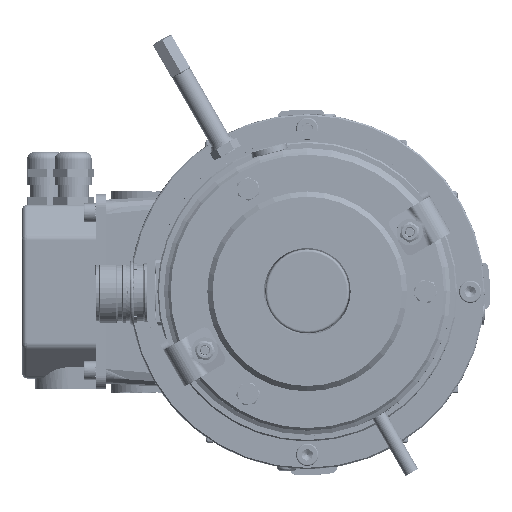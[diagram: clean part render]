
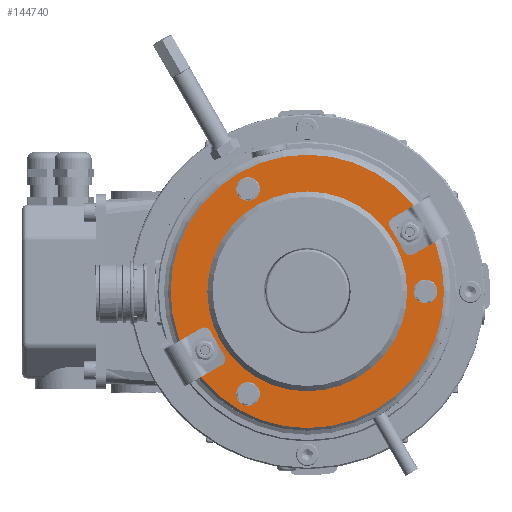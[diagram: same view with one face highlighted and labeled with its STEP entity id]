
A CAD part, top view. The second image highlights one B-rep face of the part: STEP entity #144740.
In plain terms, the highlighted planar face has unit normal (0, 0, 1).
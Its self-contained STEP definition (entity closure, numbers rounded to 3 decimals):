
#1628=FACE_BOUND('',#36947,.T.);
#1629=FACE_BOUND('',#36948,.T.);
#1630=FACE_BOUND('',#36949,.T.);
#1631=FACE_BOUND('',#36950,.T.);
#1632=FACE_BOUND('',#36951,.T.);
#1633=FACE_BOUND('',#36952,.T.);
#1634=FACE_BOUND('',#36953,.T.);
#1635=FACE_BOUND('',#36954,.T.);
#1636=FACE_BOUND('',#36955,.T.);
#1637=FACE_BOUND('',#36956,.T.);
#6329=PLANE('',#154122);
#10381=LINE('',#214909,#18391);
#10382=LINE('',#214910,#18392);
#10383=LINE('',#214911,#18393);
#10384=LINE('',#214912,#18394);
#18391=VECTOR('',#171252,7.782);
#18392=VECTOR('',#171253,7.782);
#18393=VECTOR('',#171254,7.782);
#18394=VECTOR('',#171255,7.782);
#28109=FACE_OUTER_BOUND('',#36946,.T.);
#36946=EDGE_LOOP('',(#92371));
#36947=EDGE_LOOP('',(#92372,#92373));
#36948=EDGE_LOOP('',(#92374,#92375));
#36949=EDGE_LOOP('',(#92376,#92377));
#36950=EDGE_LOOP('',(#92378,#92379));
#36951=EDGE_LOOP('',(#92380));
#36952=EDGE_LOOP('',(#92381));
#36953=EDGE_LOOP('',(#92382));
#36954=EDGE_LOOP('',(#92383));
#36955=EDGE_LOOP('',(#92384));
#36956=EDGE_LOOP('',(#92385));
#47608=CIRCLE('',#153983,4.5);
#47619=CIRCLE('',#154013,4.5);
#47630=CIRCLE('',#154043,4.5);
#47664=CIRCLE('',#154121,38.);
#47665=CIRCLE('',#154123,52.);
#47666=CIRCLE('',#154124,2.6);
#47667=CIRCLE('',#154125,2.6);
#55013=VERTEX_POINT('',#211743);
#55014=VERTEX_POINT('',#211745);
#55024=VERTEX_POINT('',#211774);
#55027=VERTEX_POINT('',#211785);
#55121=VERTEX_POINT('',#212240);
#55122=VERTEX_POINT('',#212242);
#55137=VERTEX_POINT('',#212289);
#55149=VERTEX_POINT('',#212316);
#55541=VERTEX_POINT('',#214308);
#55564=VERTEX_POINT('',#214411);
#55587=VERTEX_POINT('',#214514);
#55645=VERTEX_POINT('',#214903);
#55646=VERTEX_POINT('',#214907);
#55647=VERTEX_POINT('',#214913);
#55648=VERTEX_POINT('',#214915);
#69051=EDGE_CURVE('',#55541,#55541,#47608,.T.);
#69088=EDGE_CURVE('',#55564,#55564,#47619,.T.);
#69125=EDGE_CURVE('',#55587,#55587,#47630,.T.);
#69216=EDGE_CURVE('',#55645,#55645,#47664,.T.);
#69218=EDGE_CURVE('',#55646,#55646,#47665,.T.);
#69219=EDGE_CURVE('',#55014,#55013,#10381,.T.);
#69220=EDGE_CURVE('',#55027,#55024,#10382,.T.);
#69221=EDGE_CURVE('',#55122,#55121,#10383,.T.);
#69222=EDGE_CURVE('',#55137,#55149,#10384,.T.);
#69223=EDGE_CURVE('',#55647,#55647,#47666,.T.);
#69224=EDGE_CURVE('',#55648,#55648,#47667,.T.);
#92371=ORIENTED_EDGE('',*,*,#69218,.T.);
#92372=ORIENTED_EDGE('',*,*,#69219,.T.);
#92373=ORIENTED_EDGE('',*,*,#69219,.F.);
#92374=ORIENTED_EDGE('',*,*,#69220,.T.);
#92375=ORIENTED_EDGE('',*,*,#69220,.F.);
#92376=ORIENTED_EDGE('',*,*,#69221,.T.);
#92377=ORIENTED_EDGE('',*,*,#69221,.F.);
#92378=ORIENTED_EDGE('',*,*,#69222,.T.);
#92379=ORIENTED_EDGE('',*,*,#69222,.F.);
#92380=ORIENTED_EDGE('',*,*,#69051,.T.);
#92381=ORIENTED_EDGE('',*,*,#69088,.T.);
#92382=ORIENTED_EDGE('',*,*,#69125,.T.);
#92383=ORIENTED_EDGE('',*,*,#69223,.T.);
#92384=ORIENTED_EDGE('',*,*,#69224,.T.);
#92385=ORIENTED_EDGE('',*,*,#69216,.F.);
#144740=ADVANCED_FACE('',(#28109,#1628,#1629,#1630,#1631,#1632,#1633,#1634,
#1635,#1636,#1637),#6329,.T.);
#153983=AXIS2_PLACEMENT_3D('',#214310,#170908,#170909);
#154013=AXIS2_PLACEMENT_3D('',#214413,#170982,#170983);
#154043=AXIS2_PLACEMENT_3D('',#214516,#171056,#171057);
#154121=AXIS2_PLACEMENT_3D('',#214904,#171245,#171246);
#154122=AXIS2_PLACEMENT_3D('',#214906,#171248,#171249);
#154123=AXIS2_PLACEMENT_3D('',#214908,#171250,#171251);
#154124=AXIS2_PLACEMENT_3D('',#214914,#171256,#171257);
#154125=AXIS2_PLACEMENT_3D('',#214916,#171258,#171259);
#170908=DIRECTION('center_axis',(0.,0.,
-1.));
#170909=DIRECTION('ref_axis',(-0.866,-0.5,0.));
#170982=DIRECTION('center_axis',(0.,0.,
-1.));
#170983=DIRECTION('ref_axis',(-0.866,-0.5,0.));
#171056=DIRECTION('center_axis',(0.,0.,
-1.));
#171057=DIRECTION('ref_axis',(-0.866,-0.5,0.));
#171245=DIRECTION('center_axis',(0.,0.,
1.));
#171246=DIRECTION('ref_axis',(-0.5,0.866,0.));
#171248=DIRECTION('center_axis',(0.,0.,
1.));
#171249=DIRECTION('ref_axis',(0.866,0.5,0.));
#171250=DIRECTION('center_axis',(0.,0.,
1.));
#171251=DIRECTION('ref_axis',(-0.5,0.866,0.));
#171252=DIRECTION('',(-0.866,-0.5,0.));
#171253=DIRECTION('',(-0.866,-0.5,0.));
#171254=DIRECTION('',(-0.866,-0.5,0.));
#171255=DIRECTION('',(-0.866,-0.5,0.));
#171256=DIRECTION('center_axis',(0.,0.,
-1.));
#171257=DIRECTION('ref_axis',(-0.866,-0.5,0.));
#171258=DIRECTION('center_axis',(0.,0.,
-1.));
#171259=DIRECTION('ref_axis',(0.866,0.5,0.));
#211743=CARTESIAN_POINT('',(32.373,27.928,194.4));
#211745=CARTESIAN_POINT('',(39.112,31.819,194.4));
#211774=CARTESIAN_POINT('',(40.373,14.072,194.4));
#211785=CARTESIAN_POINT('',(47.112,17.963,194.4));
#212240=CARTESIAN_POINT('',(-47.112,-17.963,194.4));
#212242=CARTESIAN_POINT('',(-40.373,-14.072,194.4));
#212289=CARTESIAN_POINT('',(-32.373,-27.928,194.4));
#212316=CARTESIAN_POINT('',(-39.112,-31.819,194.4));
#214308=CARTESIAN_POINT('',(48.897,2.25,194.4));
#214310=CARTESIAN_POINT('Origin',(45.,0.,
194.4));
#214411=CARTESIAN_POINT('',(-18.603,-36.721,194.4));
#214413=CARTESIAN_POINT('Origin',(-22.5,-38.971,194.4));
#214514=CARTESIAN_POINT('',(-18.603,41.221,194.4));
#214516=CARTESIAN_POINT('Origin',(-22.5,38.971,194.4));
#214903=CARTESIAN_POINT('',(19.,-32.909,194.4));
#214904=CARTESIAN_POINT('Origin',(0.,0.,
194.4));
#214906=CARTESIAN_POINT('Origin',(-22.5,38.971,194.4));
#214907=CARTESIAN_POINT('',(26.,-45.033,194.4));
#214908=CARTESIAN_POINT('Origin',(0.,0.,
194.4));
#214909=CARTESIAN_POINT('',(13.104,16.803,194.4));
#214910=CARTESIAN_POINT('',(28.032,6.947,194.4));
#214911=CARTESIAN_POINT('',(-21.104,-2.947,194.4));
#214912=CARTESIAN_POINT('',(-20.032,-20.803,194.4));
#214913=CARTESIAN_POINT('',(41.223,23.8,194.4));
#214914=CARTESIAN_POINT('Origin',(38.971,22.5,194.4));
#214915=CARTESIAN_POINT('',(-41.223,-23.8,194.4));
#214916=CARTESIAN_POINT('Origin',(-38.971,-22.5,194.4));
